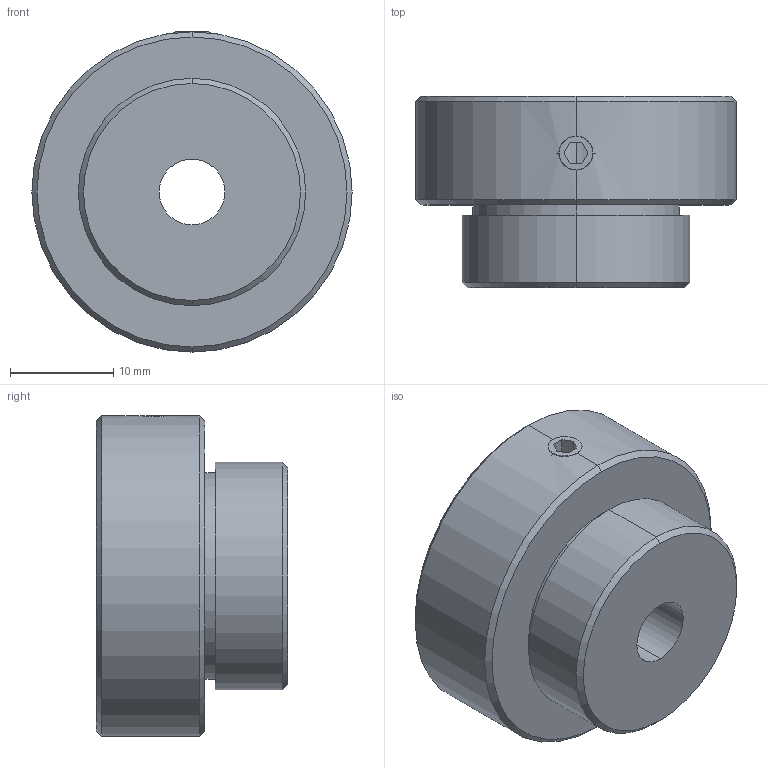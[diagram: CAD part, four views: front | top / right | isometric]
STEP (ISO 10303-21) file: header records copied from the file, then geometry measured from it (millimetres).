
FILE_DESCRIPTION (( 'STEP AP203' ), '1' );
FILE_NAME ('MAD-M22-6.35.step', '2019-05-09T08:57:11', ( '' ), ( '' ), 'SwSTEP 2.0', 'SolidWorks 2016', '' );
FILE_SCHEMA (( 'CONFIG_CONTROL_DESIGN' ));
Length unit declared in the file: millimetre
Products named in the file (1): MAD-M22-6.35
Bounding box: 31 x 18.5 x 31 mm (x, y, z)
Surface area: 3506.2 mm2 (no closed solid volume)
Topology: 0 solids, 2 shells, 67 faces, 391 edges, 326 vertices
Faces by surface type: plane 49, cylinder 10, cone 8
Entity records: 3905 total; most frequent: CARTESIAN_POINT 895, DIRECTION 545, ORIENTED_EDGE 528, EDGE_CURVE 391, LINE 357, VECTOR 357, VERTEX_POINT 326, AXIS2_PLACEMENT_3D 94
